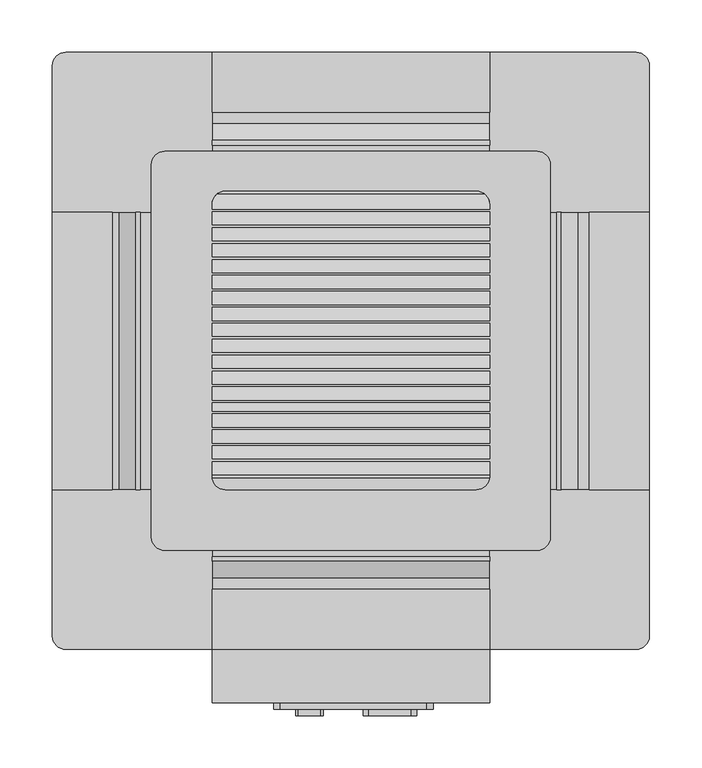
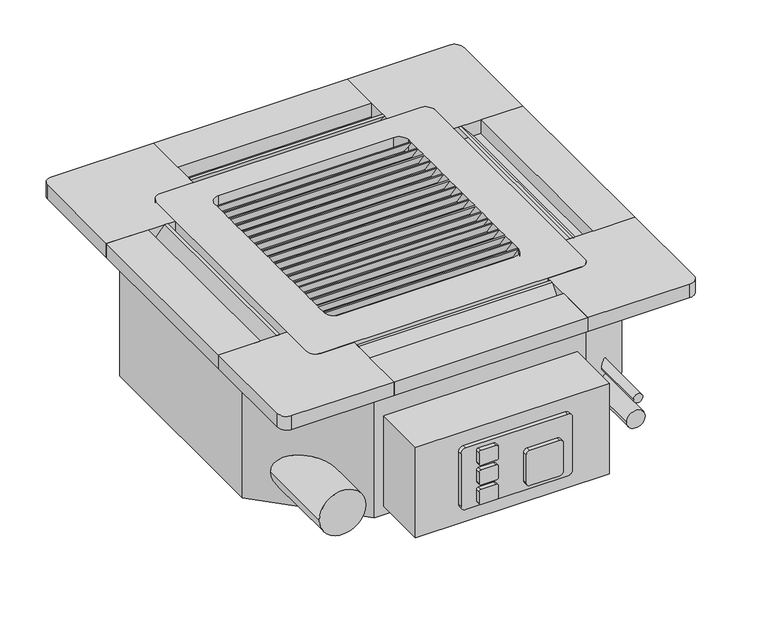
"""IFC4 building model written with IfcOpenShell, lengths in millimetres: proxy geometry, PLFY-P-NCMU-E_4-way_24x24 : PLFY-P12NCMU-E."""

from ifc_helpers import new_model, si_unit, point, frame, frame_2d, origin, place, context, project, spatial, polyline, circle_curve, ellipse_curve, trimmed, segment, composite_curve, outline, extrude, source, transform, mapped, element, save
from ifc_brep_helpers import plane_surface, cylinder_surface, revolved_surface, advanced_brep


def mechanical_equipment_2d84379e(model_context):
    return source(origin(), model_context, "Body", "SolidModel", [
        extrude(outline(polyline([(284.95625, -201.1772913), (227.80625, -201.1772913), (227.80625, 63.9352087), (284.95625, 63.9352087), (284.95625, -201.1772913)])), frame((0.0, 0.0, -1.02e-05), z_axis=(0.0, 0.0, 1.0), x_axis=(1.0, 0.0, 0.0)), (0.0, 0.0, 1.0), 19.84375),
        extrude(outline(polyline([(-284.95625, -201.1772913), (-284.95625, 63.9352087), (-227.80625, 63.9352087), (-227.80625, -201.1772913), (-284.95625, -201.1772913)])), frame((0.0, 0.0, -1.02e-05), z_axis=(0.0, 0.0, 1.0), x_axis=(1.0, 0.0, 0.0)), (0.0, 0.0, 1.0), 19.84375),
        extrude(outline(polyline([(-132.55625, 216.3352087), (132.55625, 216.3352087), (132.55625, 159.1852087), (-132.55625, 159.1852087), (-132.55625, 216.3352087)])), frame((0.0, 0.0, -1.02e-05), z_axis=(0.0, 0.0, 1.0), x_axis=(1.0, 0.0, 0.0)), (0.0, 0.0, 1.0), 19.84375),
        extrude(outline(polyline([(-132.55625, -353.5772913), (-132.55625, -296.4272913), (132.55625, -296.4272913), (132.55625, -353.5772913), (-132.55625, -353.5772913)])), frame((0.0, 0.0, -1.02e-05), z_axis=(0.0, 0.0, 1.0), x_axis=(1.0, 0.0, 0.0)), (0.0, 0.0, 1.0), 19.84375),
        extrude(outline(polyline([(-187.079491, 19.8437398), (-173.1847477, -1.02e-05), (-175.7772913, -1.02e-05), (-189.6720346, 19.8437398), (-187.079491, 19.8437398)])), frame((-132.55625, 0.0, 0.0), z_axis=(1.0, 0.0, 0.0), x_axis=(0.0, 1.0, 0.0)), (0.0, 0.0, 1.0), 265.1125),
        advanced_brep(
        [(-177.8, -259.1210413, -1.02e-05), (-190.5, -246.4210413, -1.02e-05), (-190.5, 109.1789587, -1.02e-05), (-177.8, 121.8789587, -1.02e-05), (177.8, 121.8789587, -1.02e-05), (190.5, 109.1789587, -1.02e-05), (190.5, -246.4210413, -1.02e-05), (177.8, -259.1210413, -1.02e-05), (132.55625, -130.1575084, -1.02e-05), (-132.55625, -130.1575084, -1.02e-05), (-132.55625, -142.7715591, -1.02e-05), (132.55625, -142.7715591, -1.02e-05), (132.55625, -114.9509141, -1.02e-05), (-132.55625, -114.9509141, -1.02e-05), (-132.55625, -127.5649648, -1.02e-05), (132.55625, -127.5649648, -1.02e-05), (132.55625, -104.3814755, -1.02e-05), (-132.55625, -104.3814755, -1.02e-05), (-132.55625, -112.3583705, -1.02e-05), (132.55625, -112.3583705, -1.02e-05), (132.55625, -89.1748812, -1.02e-05), (-132.55625, -89.1748812, -1.02e-05), (-132.55625, -101.7889319, -1.02e-05), (132.55625, -101.7889319, -1.02e-05), (132.55625, -73.9682869, -1.02e-05), (-132.55625, -73.9682869, -1.02e-05), (-132.55625, -86.5823376, -1.02e-05), (132.55625, -86.5823376, -1.02e-05), (132.55625, -58.7616926, -1.02e-05), (-132.55625, -58.7616926, -1.02e-05), (-132.55625, -71.3757433, -1.02e-05), (132.55625, -71.3757433, -1.02e-05), (132.55625, -43.5550983, -1.02e-05), (-132.55625, -43.5550983, -1.02e-05), (-132.55625, -56.169149, -1.02e-05), (132.55625, -56.169149, -1.02e-05), (132.55625, -28.348504, -1.02e-05), (-132.55625, -28.348504, -1.02e-05), (-132.55625, -40.9625547, -1.02e-05), (132.55625, -40.9625547, -1.02e-05), (132.55625, -13.1419097, -1.02e-05), (-132.55625, -13.1419097, -1.02e-05), (-132.55625, -25.7559604, -1.02e-05), (132.55625, -25.7559604, -1.02e-05), (132.55625, 32.4778732, -1.02e-05), (-132.55625, 32.4778732, -1.02e-05), (-132.55625, 19.8638225, -1.02e-05), (132.55625, 19.8638225, -1.02e-05), (132.55625, 47.6844675, -1.02e-05), (-132.55625, 47.6844675, -1.02e-05), (-132.55625, 35.0704168, -1.02e-05), (132.55625, 35.0704168, -1.02e-05), (132.55625, 62.8910618, -1.02e-05), (-132.55625, 62.8910618, -1.02e-05), (-132.55625, 50.2770111, -1.02e-05), (132.55625, 50.2770111, -1.02e-05), (132.55625, 2.0646846, -1.02e-05), (-132.55625, 2.0646846, -1.02e-05), (-132.55625, -10.5493661, -1.02e-05), (132.55625, -10.5493661, -1.02e-05), (-132.55625, 4.6572282, -1.02e-05), (132.55625, 4.6572282, -1.02e-05), (132.55625, 17.2712789, -1.02e-05), (-132.55625, 17.2712789, -1.02e-05), (132.55625, 71.0789587, -1.02e-05), (130.4405727, 78.0976561, -1.02e-05), (-130.4405727, 78.0976561, -1.02e-05), (-132.55625, 71.0789587, -1.02e-05), (-132.55625, 65.4836054, -1.02e-05), (132.55625, 65.4836054, -1.02e-05), (-132.55625, -145.3641027, -1.02e-05), (-132.55625, -157.9781534, -1.02e-05), (132.55625, -157.9781534, -1.02e-05), (132.55625, -145.3641027, -1.02e-05), (-132.55625, -188.4772913, -1.02e-05), (-119.85625, -201.1772913, -1.02e-05), (119.85625, -201.1772913, -1.02e-05), (132.55625, -188.4772913, -1.02e-05), (132.55625, -160.570697, -1.02e-05), (-132.55625, -160.570697, -1.02e-05), (119.85625, 83.7789587, -1.02e-05), (-119.85625, 83.7789587, -1.02e-05), (-128.1576984, 80.6901997, -1.02e-05), (128.1576984, 80.6901997, -1.02e-05), (-177.8, -259.1210413, 19.8437398), (177.8, -259.1210413, 19.8437398), (190.5, -246.4210413, 19.8437398), (190.5, 109.1789587, 19.8437398), (177.8, 121.8789587, 19.8437398), (-177.8, 121.8789587, 19.8437398), (-190.5, 109.1789587, 19.8437398), (-190.5, -246.4210413, 19.8437398), (-132.55625, -144.0522517, 19.8437398), (132.55625, -144.0522517, 19.8437398), (132.55625, -156.6663024, 19.8437398), (-132.55625, -156.6663024, 19.8437398), (-132.55625, -128.8456574, 19.8437398), (132.55625, -128.8456574, 19.8437398), (132.55625, -141.4597081, 19.8437398), (-132.55625, -141.4597081, 19.8437398), (-132.55625, -118.2762188, 19.8437398), (132.55625, -118.2762188, 19.8437398), (132.55625, -126.2531138, 19.8437398), (-132.55625, -126.2531138, 19.8437398), (-132.55625, -103.0696245, 19.8437398), (132.55625, -103.0696245, 19.8437398), (132.55625, -115.6836752, 19.8437398), (-132.55625, -115.6836752, 19.8437398), (-132.55625, -87.8630302, 19.8437398), (132.55625, -87.8630302, 19.8437398), (132.55625, -100.4770809, 19.8437398), (-132.55625, -100.4770809, 19.8437398), (-132.55625, -72.6564359, 19.8437398), (132.55625, -72.6564359, 19.8437398), (132.55625, -85.2704866, 19.8437398), (-132.55625, -85.2704866, 19.8437398), (-132.55625, -57.4498416, 19.8437398), (132.55625, -57.4498416, 19.8437398), (132.55625, -70.0638923, 19.8437398), (-132.55625, -70.0638923, 19.8437398), (-132.55625, -42.2432473, 19.8437398), (132.55625, -42.2432473, 19.8437398), (132.55625, -54.857298, 19.8437398), (-132.55625, -54.857298, 19.8437398), (-132.55625, -27.036653, 19.8437398), (132.55625, -27.036653, 19.8437398), (132.55625, -39.6507037, 19.8437398), (-132.55625, -39.6507037, 19.8437398), (-132.55625, 18.5831298, 19.8437398), (132.55625, 18.5831298, 19.8437398), (132.55625, 5.9690792, 19.8437398), (-132.55625, 5.9690792, 19.8437398), (-132.55625, 33.7897241, 19.8437398), (132.55625, 33.7897241, 19.8437398), (132.55625, 21.1756735, 19.8437398), (-132.55625, 21.1756735, 19.8437398), (-132.55625, 48.9963184, 19.8437398), (132.55625, 48.9963184, 19.8437398), (132.55625, 36.3822678, 19.8437398), (-132.55625, 36.3822678, 19.8437398), (-132.55625, -11.8300587, 19.8437398), (132.55625, -11.8300587, 19.8437398), (132.55625, -24.4441094, 19.8437398), (-132.55625, -24.4441094, 19.8437398), (132.55625, -9.2375151, 19.8437398), (-132.55625, -9.2375151, 19.8437398), (-132.55625, 3.3765356, 19.8437398), (132.55625, 3.3765356, 19.8437398), (-132.55625, 64.2029127, 19.8437398), (132.55625, 64.2029127, 19.8437398), (132.55625, 51.5888621, 19.8437398), (-132.55625, 51.5888621, 19.8437398), (-132.55625, 71.0789587, 19.8437398), (-119.85625, 83.7789587, 19.8437398), (119.85625, 83.7789587, 19.8437398), (132.55625, 71.0789587, 19.8437398), (132.55625, 66.7954564, 19.8437398), (-132.55625, 66.7954564, 19.8437398), (132.55625, -159.258846, 19.8437398), (132.55625, -171.8728967, 19.8437398), (-132.55625, -171.8728967, 19.8437398), (-132.55625, -159.258846, 19.8437398), (132.55625, -188.4772913, 19.8437398), (119.85625, -201.1772913, 19.8437398), (-119.85625, -201.1772913, 19.8437398), (-132.55625, -188.4772913, 19.8437398), (-132.55625, -174.4654403, 19.8437398), (132.55625, -174.4654403, 19.8437398), (132.55625, 71.0789587, 13.7262645), (132.55625, 71.0789587, 10.0237284), (-132.55625, 71.0789587, 10.0237284), (-132.55625, 71.0789587, 13.7262645)],
        [
            (0, 1, circle_curve(frame((-177.8, -246.4210413, -1.02e-05), z_axis=(0.0, 0.0, -1.0), x_axis=(-1.0, 0.0, 0.0)), 12.7)),
            (1, 2),
            (2, 3, circle_curve(frame((-177.8, 109.1789587, -1.02e-05), z_axis=(0.0, 0.0, -1.0), x_axis=(-1.0, 0.0, 0.0)), 12.7)),
            (3, 4),
            (4, 5, circle_curve(frame((177.8, 109.1789587, -1.02e-05), z_axis=(0.0, 0.0, -1.0), x_axis=(-1.0, 0.0, 0.0)), 12.7)),
            (5, 6),
            (6, 7, circle_curve(frame((177.8, -246.4210413, -1.02e-05), z_axis=(0.0, 0.0, -1.0), x_axis=(-1.0, 0.0, 0.0)), 12.7)),
            (7, 0),
            (8, 9),
            (9, 10),
            (10, 11),
            (11, 8),
            (12, 13),
            (13, 14),
            (14, 15),
            (15, 12),
            (16, 17),
            (17, 18),
            (18, 19),
            (19, 16),
            (20, 21),
            (21, 22),
            (22, 23),
            (23, 20),
            (24, 25),
            (25, 26),
            (26, 27),
            (27, 24),
            (28, 29),
            (29, 30),
            (30, 31),
            (31, 28),
            (32, 33),
            (33, 34),
            (34, 35),
            (35, 32),
            (36, 37),
            (37, 38),
            (38, 39),
            (39, 36),
            (40, 41),
            (41, 42),
            (42, 43),
            (43, 40),
            (44, 45),
            (45, 46),
            (46, 47),
            (47, 44),
            (48, 49),
            (49, 50),
            (50, 51),
            (51, 48),
            (52, 53),
            (53, 54),
            (54, 55),
            (55, 52),
            (56, 57),
            (57, 58),
            (58, 59),
            (59, 56),
            (60, 61),
            (61, 62),
            (62, 63),
            (63, 60),
            (64, 65, circle_curve(frame((119.85625, 71.0789587, -1.02e-05), z_axis=(0.0, 0.0, 1.0), x_axis=(-1.0, 0.0, 0.0)), 12.7)),
            (65, 66),
            (66, 67, circle_curve(frame((-119.85625, 71.0789587, -1.02e-05), z_axis=(0.0, 0.0, 1.0), x_axis=(-1.0, 0.0, 0.0)), 12.7)),
            (67, 68),
            (68, 69),
            (69, 64),
            (70, 71),
            (71, 72),
            (72, 73),
            (73, 70),
            (74, 75, circle_curve(frame((-119.85625, -188.4772913, -1.02e-05), z_axis=(0.0, 0.0, 1.0), x_axis=(-1.0, 0.0, 0.0)), 12.7)),
            (75, 76),
            (76, 77, circle_curve(frame((119.85625, -188.4772913, -1.02e-05), z_axis=(0.0, 0.0, 1.0), x_axis=(-1.0, 0.0, 0.0)), 12.7)),
            (77, 78),
            (78, 79),
            (79, 74),
            (80, 81),
            (81, 82, circle_curve(frame((-119.85625, 71.0789587, -1.02e-05), z_axis=(0.0, 0.0, 1.0), x_axis=(-1.0, 0.0, 0.0)), 12.7)),
            (82, 83),
            (83, 80, circle_curve(frame((119.85625, 71.0789587, -1.02e-05), z_axis=(0.0, 0.0, 1.0), x_axis=(-1.0, 0.0, 0.0)), 12.7)),
            (84, 85),
            (85, 86, circle_curve(frame((177.8, -246.4210413, 19.8437398), z_axis=(0.0, 0.0, 1.0), x_axis=(-1.0, 0.0, 0.0)), 12.7)),
            (86, 87),
            (87, 88, circle_curve(frame((177.8, 109.1789587, 19.8437398), z_axis=(0.0, 0.0, 1.0), x_axis=(-1.0, 0.0, 0.0)), 12.7)),
            (88, 89),
            (89, 90, circle_curve(frame((-177.8, 109.1789587, 19.8437398), z_axis=(0.0, 0.0, 1.0), x_axis=(-1.0, 0.0, 0.0)), 12.7)),
            (90, 91),
            (91, 84, circle_curve(frame((-177.8, -246.4210413, 19.8437398), z_axis=(0.0, 0.0, 1.0), x_axis=(-1.0, 0.0, 0.0)), 12.7)),
            (92, 93),
            (93, 94),
            (94, 95),
            (95, 92),
            (96, 97),
            (97, 98),
            (98, 99),
            (99, 96),
            (100, 101),
            (101, 102),
            (102, 103),
            (103, 100),
            (104, 105),
            (105, 106),
            (106, 107),
            (107, 104),
            (108, 109),
            (109, 110),
            (110, 111),
            (111, 108),
            (112, 113),
            (113, 114),
            (114, 115),
            (115, 112),
            (116, 117),
            (117, 118),
            (118, 119),
            (119, 116),
            (120, 121),
            (121, 122),
            (122, 123),
            (123, 120),
            (124, 125),
            (125, 126),
            (126, 127),
            (127, 124),
            (128, 129),
            (129, 130),
            (130, 131),
            (131, 128),
            (132, 133),
            (133, 134),
            (134, 135),
            (135, 132),
            (136, 137),
            (137, 138),
            (138, 139),
            (139, 136),
            (140, 141),
            (141, 142),
            (142, 143),
            (143, 140),
            (144, 145),
            (145, 146),
            (146, 147),
            (147, 144),
            (148, 149),
            (149, 150),
            (150, 151),
            (151, 148),
            (152, 153, circle_curve(frame((-119.85625, 71.0789587, 19.8437398), z_axis=(0.0, 0.0, -1.0), x_axis=(-1.0, 0.0, 0.0)), 12.7)),
            (153, 154),
            (154, 155, circle_curve(frame((119.85625, 71.0789587, 19.8437398), z_axis=(0.0, 0.0, -1.0), x_axis=(-1.0, 0.0, 0.0)), 12.7)),
            (155, 156),
            (156, 157),
            (157, 152),
            (158, 159),
            (159, 160),
            (160, 161),
            (161, 158),
            (162, 163, circle_curve(frame((119.85625, -188.4772913, 19.8437398), z_axis=(0.0, 0.0, -1.0), x_axis=(-1.0, 0.0, 0.0)), 12.7)),
            (163, 164),
            (164, 165, circle_curve(frame((-119.85625, -188.4772913, 19.8437398), z_axis=(0.0, 0.0, -1.0), x_axis=(-1.0, 0.0, 0.0)), 12.7)),
            (165, 166),
            (166, 167),
            (167, 162),
            (155, 168),
            (168, 156),
            (77, 162),
            (167, 78),
            (169, 64),
            (69, 150),
            (149, 169),
            (61, 144),
            (147, 62),
            (141, 56),
            (59, 142),
            (137, 52),
            (55, 138),
            (133, 48),
            (51, 134),
            (129, 44),
            (47, 130),
            (125, 40),
            (43, 126),
            (121, 36),
            (39, 122),
            (117, 32),
            (35, 118),
            (113, 28),
            (31, 114),
            (109, 24),
            (27, 110),
            (105, 20),
            (23, 106),
            (101, 16),
            (19, 102),
            (97, 12),
            (15, 98),
            (93, 8),
            (11, 94),
            (158, 73),
            (72, 159),
            (169, 65, ellipse_curve(frame((119.85625, 71.0789587, 10.0237284), z_axis=(0.0, 0.8191520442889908, 0.5735764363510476), x_axis=(0.0, -0.5735764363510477, 0.8191520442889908)), 22.1417743, 12.7)),
            (154, 80),
            (83, 168, ellipse_curve(frame((119.85625, 71.0789587, 13.7262645), z_axis=(0.0, -0.8191520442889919, -0.573576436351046), x_axis=(0.0, -0.5735764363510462, 0.8191520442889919)), 22.1417743, 12.7)),
            (153, 81),
            (66, 170, ellipse_curve(frame((-119.85625, 71.0789587, 10.0237284), z_axis=(0.0, 0.8191520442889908, 0.5735764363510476), x_axis=(0.0, -0.5735764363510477, 0.8191520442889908)), 22.1417743, 12.7)),
            (170, 67),
            (152, 171),
            (171, 82, ellipse_curve(frame((-119.85625, 71.0789587, 13.7262645), z_axis=(0.0, -0.8191520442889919, -0.573576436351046), x_axis=(0.0, -0.5735764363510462, 0.8191520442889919)), 22.1417743, 12.7)),
            (157, 171),
            (170, 148),
            (151, 68),
            (165, 74),
            (79, 166),
            (145, 60),
            (63, 146),
            (57, 140),
            (143, 58),
            (53, 136),
            (139, 54),
            (49, 132),
            (135, 50),
            (45, 128),
            (131, 46),
            (41, 124),
            (127, 42),
            (37, 120),
            (123, 38),
            (33, 116),
            (119, 34),
            (29, 112),
            (115, 30),
            (25, 108),
            (111, 26),
            (21, 104),
            (107, 22),
            (17, 100),
            (103, 18),
            (13, 96),
            (99, 14),
            (9, 92),
            (95, 10),
            (70, 161),
            (160, 71),
            (164, 75),
            (163, 76),
            (0, 84),
            (91, 1),
            (90, 2),
            (89, 3),
            (88, 4),
            (87, 5),
            (86, 6),
            (85, 7),
        ],
        [
            plane_surface(frame((132.55625, 71.0789587, -1.02e-05), z_axis=(0.0, 0.0, -1.0), x_axis=(0.0, 1.0, 0.0))),
            plane_surface(frame((132.55625, 71.0789587, 19.8437398), z_axis=(0.0, 0.0, 1.0), x_axis=(0.0, -1.0, 0.0))),
            plane_surface(frame((132.55625, -188.4772913, -1.02e-05), z_axis=(-1.0, 0.0, 0.0), x_axis=(0.0, 0.0, 1.0))),
            revolved_surface(polyline([(107.15625, 71.0789587, 28.161208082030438), (107.15625, 71.0789587, -8.113751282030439)]), (119.85625, 71.0789587, 19.8437398), (0.0, 0.0, 1.0)),
            revolved_surface(polyline([(107.15625, 71.0789587, 31.863744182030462), (107.15625, 71.0789587, -4.411215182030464)]), (119.85625, 71.0789587, 19.8437398), (0.0, 0.0, 1.0)),
            plane_surface(frame((119.85625, 83.7789587, -1.02e-05), z_axis=(0.0, -1.0, 0.0), x_axis=(0.0, 0.0, 1.0))),
            revolved_surface(polyline([(-132.55625, 71.0789587, 28.161208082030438), (-132.55625, 71.0789587, -8.113751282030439)]), (-119.85625, 71.0789587, 19.8437398), (0.0, 0.0, 1.0)),
            revolved_surface(polyline([(-132.55625, 71.0789587, 31.863744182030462), (-132.55625, 71.0789587, -4.411215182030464)]), (-119.85625, 71.0789587, 19.8437398), (0.0, 0.0, 1.0)),
            plane_surface(frame((-132.55625, 71.0789587, -1.02e-05), z_axis=(1.0, 0.0, 0.0), x_axis=(0.0, 0.0, 1.0))),
            revolved_surface(polyline([(-132.55625, -188.4772913, 19.8437398), (-132.55625, -188.4772913, -1.0199999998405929e-05)]), (-119.85625, -188.4772913, 19.8437398), (0.0, 0.0, 1.0)),
            plane_surface(frame((-119.85625, -201.1772913, -1.02e-05), z_axis=(0.0, 1.0, 0.0), x_axis=(0.0, 0.0, 1.0))),
            revolved_surface(polyline([(107.15625, -188.4772913, 19.8437398), (107.15625, -188.4772913, -1.0199999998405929e-05)]), (119.85625, -188.4772913, 19.8437398), (0.0, 0.0, 1.0)),
            cylinder_surface(frame((-177.8, -246.4210413, -1.02e-05), z_axis=(0.0, 0.0, -1.0), x_axis=(-1.0, 0.0, 0.0)), 12.7),
            plane_surface(frame((-190.5, -246.4210413, -1.02e-05), z_axis=(-1.0, 0.0, 0.0), x_axis=(0.0, 0.0, 1.0))),
            cylinder_surface(frame((-177.8, 109.1789587, -1.02e-05), z_axis=(0.0, 0.0, -1.0), x_axis=(-1.0, 0.0, 0.0)), 12.7),
            plane_surface(frame((-177.8, 121.8789587, -1.02e-05), z_axis=(0.0, 1.0, 0.0), x_axis=(0.0, 0.0, 1.0))),
            cylinder_surface(frame((177.8, 109.1789587, -1.02e-05), z_axis=(0.0, 0.0, -1.0), x_axis=(-1.0, 0.0, 0.0)), 12.7),
            plane_surface(frame((190.5, 109.1789587, -1.02e-05), z_axis=(1.0, 0.0, 0.0), x_axis=(0.0, 0.0, 1.0))),
            cylinder_surface(frame((177.8, -246.4210413, -1.02e-05), z_axis=(0.0, 0.0, -1.0), x_axis=(-1.0, 0.0, 0.0)), 12.7),
            plane_surface(frame((177.8, -259.1210413, -1.02e-05), z_axis=(0.0, -1.0, 0.0), x_axis=(0.0, 0.0, 1.0))),
            plane_surface(frame((-132.55625, 66.7954564, 19.8437398), z_axis=(0.0, 0.8191520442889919, 0.573576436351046), x_axis=(1.0, 0.0, 0.0))),
            plane_surface(frame((-132.55625, 78.0976561, -1.02e-05), z_axis=(0.0, -0.8191520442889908, -0.5735764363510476), x_axis=(1.0, 0.0, 0.0))),
            plane_surface(frame((-132.55625, -9.2375151, 19.8437398), z_axis=(0.0, 0.8191520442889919, 0.573576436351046), x_axis=(1.0, 0.0, 0.0))),
            plane_surface(frame((-132.55625, 2.0646846, -1.02e-05), z_axis=(0.0, -0.8191520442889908, -0.5735764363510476), x_axis=(1.0, 0.0, 0.0))),
            plane_surface(frame((-132.55625, 51.5888621, 19.8437398), z_axis=(0.0, 0.8191520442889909, 0.5735764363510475), x_axis=(1.0, 0.0, 0.0))),
            plane_surface(frame((-132.55625, 62.8910618, -1.02e-05), z_axis=(0.0, -0.8191520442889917, -0.5735764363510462), x_axis=(1.0, 0.0, 0.0))),
            plane_surface(frame((-132.55625, 36.3822678, 19.8437398), z_axis=(0.0, 0.8191520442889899, 0.5735764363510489), x_axis=(1.0, 0.0, 0.0))),
            plane_surface(frame((-132.55625, 47.6844675, -1.02e-05), z_axis=(0.0, -0.8191520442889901, -0.5735764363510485), x_axis=(1.0, 0.0, 0.0))),
            plane_surface(frame((-132.55625, 21.1756735, 19.8437398), z_axis=(0.0, 0.8191520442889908, 0.5735764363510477), x_axis=(1.0, 0.0, 0.0))),
            plane_surface(frame((-132.55625, 32.4778732, -1.02e-05), z_axis=(0.0, -0.8191520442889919, -0.5735764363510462), x_axis=(1.0, 0.0, 0.0))),
            plane_surface(frame((-132.55625, 5.9690792, 19.8437398), z_axis=(0.0, 0.8191520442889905, 0.5735764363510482), x_axis=(1.0, 0.0, 0.0))),
            plane_surface(frame((-132.55625, 17.2712789, -1.02e-05), z_axis=(0.0, -0.8191520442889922, -0.5735764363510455), x_axis=(1.0, 0.0, 0.0))),
            plane_surface(frame((-132.55625, -24.4441094, 19.8437398), z_axis=(0.0, 0.8191520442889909, 0.5735764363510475), x_axis=(1.0, 0.0, 0.0))),
            plane_surface(frame((-132.55625, -13.1419097, -1.02e-05), z_axis=(0.0, -0.8191520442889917, -0.5735764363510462), x_axis=(1.0, 0.0, 0.0))),
            plane_surface(frame((-132.55625, -39.6507037, 19.8437398), z_axis=(0.0, 0.8191520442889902, 0.5735764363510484), x_axis=(1.0, 0.0, 0.0))),
            plane_surface(frame((-132.55625, -28.348504, -1.02e-05), z_axis=(0.0, -0.8191520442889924, -0.5735764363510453), x_axis=(1.0, 0.0, 0.0))),
            plane_surface(frame((-132.55625, -54.857298, 19.8437398), z_axis=(0.0, 0.8191520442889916, 0.5735764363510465), x_axis=(1.0, 0.0, 0.0))),
            plane_surface(frame((-132.55625, -43.5550983, -1.02e-05), z_axis=(0.0, -0.8191520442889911, -0.5735764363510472), x_axis=(1.0, 0.0, 0.0))),
            plane_surface(frame((-132.55625, -70.0638923, 19.8437398), z_axis=(0.0, 0.8191520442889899, 0.5735764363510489), x_axis=(1.0, 0.0, 0.0))),
            plane_surface(frame((-132.55625, -58.7616926, -1.02e-05), z_axis=(0.0, -0.8191520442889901, -0.5735764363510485), x_axis=(1.0, 0.0, 0.0))),
            plane_surface(frame((-132.55625, -85.2704866, 19.8437398), z_axis=(0.0, 0.8191520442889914, 0.5735764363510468), x_axis=(1.0, 0.0, 0.0))),
            plane_surface(frame((-132.55625, -73.9682869, -1.02e-05), z_axis=(0.0, -0.8191520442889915, -0.5735764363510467), x_axis=(1.0, 0.0, 0.0))),
            plane_surface(frame((-132.55625, -100.4770809, 19.8437398), z_axis=(0.0, 0.8191520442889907, 0.5735764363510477), x_axis=(1.0, 0.0, 0.0))),
            plane_surface(frame((-132.55625, -89.1748812, -1.02e-05), z_axis=(0.0, -0.8191520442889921, -0.5735764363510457), x_axis=(1.0, 0.0, 0.0))),
            plane_surface(frame((-132.55625, -115.6836752, 19.8437398), z_axis=(0.0, 0.819152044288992, 0.5735764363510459), x_axis=(1.0, 0.0, 0.0))),
            plane_surface(frame((-132.55625, -104.3814755, -1.02e-05), z_axis=(0.0, -0.8191520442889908, -0.5735764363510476), x_axis=(1.0, 0.0, 0.0))),
            plane_surface(frame((-132.55625, -126.2531138, 19.8437398), z_axis=(0.0, 0.8191520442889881, 0.5735764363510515), x_axis=(1.0, 0.0, 0.0))),
            plane_surface(frame((-132.55625, -114.9509141, -1.02e-05), z_axis=(0.0, -0.8191520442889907, -0.5735764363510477), x_axis=(1.0, 0.0, 0.0))),
            plane_surface(frame((-132.55625, -141.4597081, 19.8437398), z_axis=(0.0, 0.8191520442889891, 0.5735764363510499), x_axis=(1.0, 0.0, 0.0))),
            plane_surface(frame((-132.55625, -130.1575084, -1.02e-05), z_axis=(0.0, -0.819152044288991, -0.5735764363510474), x_axis=(1.0, 0.0, 0.0))),
            plane_surface(frame((-132.55625, -156.6663024, 19.8437398), z_axis=(0.0, 0.8191520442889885, 0.5735764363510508), x_axis=(1.0, 0.0, 0.0))),
            plane_surface(frame((-132.55625, -145.3641027, -1.02e-05), z_axis=(0.0, -0.819152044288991, -0.5735764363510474), x_axis=(1.0, 0.0, 0.0))),
            plane_surface(frame((-132.55625, -171.8728967, 19.8437398), z_axis=(0.0, 0.8191520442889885, 0.5735764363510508), x_axis=(1.0, 0.0, 0.0))),
            plane_surface(frame((-132.55625, -160.570697, -1.02e-05), z_axis=(0.0, -0.819152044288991, -0.5735764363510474), x_axis=(1.0, 0.0, 0.0))),
        ],
        [
            (0, [[1, 2, 3, 4, 5, 6, 7, 8], [9, 10, 11, 12], [13, 14, 15, 16], [17, 18, 19, 20], [21, 22, 23, 24], [25, 26, 27, 28], [29, 30, 31, 32], [33, 34, 35, 36], [37, 38, 39, 40], [41, 42, 43, 44], [45, 46, 47, 48], [49, 50, 51, 52], [53, 54, 55, 56], [57, 58, 59, 60], [61, 62, 63, 64], [65, 66, 67, 68, 69, 70], [71, 72, 73, 74], [75, 76, 77, 78, 79, 80], [81, 82, 83, 84]]),
            (1, [[85, 86, 87, 88, 89, 90, 91, 92], [93, 94, 95, 96], [97, 98, 99, 100], [101, 102, 103, 104], [105, 106, 107, 108], [109, 110, 111, 112], [113, 114, 115, 116], [117, 118, 119, 120], [121, 122, 123, 124], [125, 126, 127, 128], [129, 130, 131, 132], [133, 134, 135, 136], [137, 138, 139, 140], [141, 142, 143, 144], [145, 146, 147, 148], [149, 150, 151, 152], [153, 154, 155, 156, 157, 158], [159, 160, 161, 162], [163, 164, 165, 166, 167, 168]]),
            (2, [[-156, 169, 170]]),
            (2, [[171, -168, 172, -78]]),
            (2, [[173, -70, 174, -150, 175]]),
            (2, [[176, -148, 177, -62]]),
            (2, [[178, -60, 179, -142]]),
            (2, [[180, -56, 181, -138]]),
            (2, [[182, -52, 183, -134]]),
            (2, [[184, -48, 185, -130]]),
            (2, [[186, -44, 187, -126]]),
            (2, [[188, -40, 189, -122]]),
            (2, [[190, -36, 191, -118]]),
            (2, [[192, -32, 193, -114]]),
            (2, [[194, -28, 195, -110]]),
            (2, [[196, -24, 197, -106]]),
            (2, [[198, -20, 199, -102]]),
            (2, [[200, -16, 201, -98]]),
            (2, [[202, -12, 203, -94]]),
            (2, [[204, -73, 205, -159]]),
            (3, [[-65, -173, 206]]),
            (4, [[-155, 207, -84, 208, -169]]),
            (5, [[-81, -207, -154, 209]]),
            (6, [[-67, 210, 211]]),
            (7, [[-153, 212, 213, -82, -209]]),
            (8, [[-158, 214, -212]]),
            (8, [[-211, 215, -152, 216, -68]]),
            (8, [[217, -80, 218, -166]]),
            (8, [[219, -64, 220, -146]]),
            (8, [[221, -144, 222, -58]]),
            (8, [[223, -140, 224, -54]]),
            (8, [[225, -136, 226, -50]]),
            (8, [[227, -132, 228, -46]]),
            (8, [[229, -128, 230, -42]]),
            (8, [[231, -124, 232, -38]]),
            (8, [[233, -120, 234, -34]]),
            (8, [[235, -116, 236, -30]]),
            (8, [[237, -112, 238, -26]]),
            (8, [[239, -108, 240, -22]]),
            (8, [[241, -104, 242, -18]]),
            (8, [[243, -100, 244, -14]]),
            (8, [[245, -96, 246, -10]]),
            (8, [[247, -161, 248, -71]]),
            (9, [[-75, -217, -165, 249]]),
            (10, [[-76, -249, -164, 250]]),
            (11, [[-77, -250, -163, -171]]),
            (12, [[-1, 251, -92, 252]]),
            (13, [[-2, -252, -91, 253]]),
            (14, [[-3, -253, -90, 254]]),
            (15, [[-4, -254, -89, 255]]),
            (16, [[-5, -255, -88, 256]]),
            (17, [[-6, -256, -87, 257]]),
            (18, [[-7, -257, -86, 258]]),
            (19, [[-8, -258, -85, -251]]),
            (20, [[-157, -170, -208, -83, -213, -214]]),
            (21, [[-149, -215, -210, -66, -206, -175]]),
            (22, [[-145, -176, -61, -219]]),
            (23, [[-57, -178, -141, -221]]),
            (24, [[-151, -174, -69, -216]]),
            (25, [[-53, -180, -137, -223]]),
            (26, [[-139, -181, -55, -224]]),
            (27, [[-49, -182, -133, -225]]),
            (28, [[-135, -183, -51, -226]]),
            (29, [[-45, -184, -129, -227]]),
            (30, [[-131, -185, -47, -228]]),
            (31, [[-63, -177, -147, -220]]),
            (32, [[-143, -179, -59, -222]]),
            (33, [[-41, -186, -125, -229]]),
            (34, [[-127, -187, -43, -230]]),
            (35, [[-37, -188, -121, -231]]),
            (36, [[-123, -189, -39, -232]]),
            (37, [[-33, -190, -117, -233]]),
            (38, [[-119, -191, -35, -234]]),
            (39, [[-29, -192, -113, -235]]),
            (40, [[-115, -193, -31, -236]]),
            (41, [[-25, -194, -109, -237]]),
            (42, [[-111, -195, -27, -238]]),
            (43, [[-21, -196, -105, -239]]),
            (44, [[-107, -197, -23, -240]]),
            (45, [[-17, -198, -101, -241]]),
            (46, [[-103, -199, -19, -242]]),
            (47, [[-13, -200, -97, -243]]),
            (48, [[-99, -201, -15, -244]]),
            (49, [[-9, -202, -93, -245]]),
            (50, [[-95, -203, -11, -246]]),
            (51, [[-74, -204, -162, -247]]),
            (52, [[-160, -205, -72, -248]]),
            (53, [[-79, -172, -167, -218]]),
        ],
    ),
        advanced_brep(
        [(259.55625, 76.6352087, -188.1187602), (259.55625, -213.8772913, -188.1187602), (145.25625, -328.1772913, -188.1187602), (-145.25625, -328.1772913, -188.1187602), (-259.55625, -213.8772913, -188.1187602), (-259.55625, 76.6352087, -188.1187602), (-145.25625, 190.9352087, -188.1187602), (145.25625, 190.9352087, -188.1187602), (259.55625, 76.6352087, -1.02e-05), (145.25625, 190.9352087, -1.02e-05), (-145.25625, 190.9352087, -1.02e-05), (-259.55625, 76.6352087, -1.02e-05), (-259.55625, -213.8772913, -1.02e-05), (-145.25625, -328.1772913, -1.02e-05), (145.25625, -328.1772913, -1.02e-05), (259.55625, -213.8772913, -1.02e-05), (195.2625, -278.1710413, -120.6500102), (207.9625, -265.4710413, -120.6500102), (185.7375, -287.6960413, -150.0187602), (211.1375, -262.2960413, -150.0187602), (-234.95, -238.4835413, -144.6440338), (-171.45, -301.9835413, -144.6440338), (207.9625, -353.5772913, -120.6500102), (195.2625, -353.5772913, -120.6500102), (211.1375, -353.5772913, -150.0187602), (185.7375, -353.5772913, -150.0187602), (-171.45, -353.5772913, -144.6440338), (-234.95, -353.5772913, -144.6440338)],
        [
            (0, 1),
            (1, 2),
            (2, 3),
            (3, 4),
            (4, 5),
            (5, 6),
            (6, 7),
            (7, 0),
            (8, 9),
            (9, 10),
            (10, 11),
            (11, 12),
            (12, 13),
            (13, 14),
            (14, 15),
            (15, 8),
            (0, 8),
            (15, 1),
            (14, 2),
            (16, 17, ellipse_curve(frame((201.6125, -271.8210413, -120.6500102), z_axis=(-0.7071067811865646, 0.7071067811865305, 0.0), x_axis=(-0.7071067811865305, -0.7071067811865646, 0.0)), 8.9802561, 6.35)),
            (17, 16, ellipse_curve(frame((201.6125, -271.8210413, -120.6500102), z_axis=(-0.7071067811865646, 0.7071067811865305, 0.0), x_axis=(-0.7071067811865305, -0.7071067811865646, 0.0)), 8.9802561, 6.35)),
            (18, 19, ellipse_curve(frame((198.4375, -274.9960413, -150.0187602), z_axis=(-0.7071067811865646, 0.7071067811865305, 0.0), x_axis=(-0.7071067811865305, -0.7071067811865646, 0.0)), 17.9605122, 12.7)),
            (19, 18, ellipse_curve(frame((198.4375, -274.9960413, -150.0187602), z_axis=(-0.7071067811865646, 0.7071067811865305, 0.0), x_axis=(-0.7071067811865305, -0.7071067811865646, 0.0)), 17.9605122, 12.7)),
            (13, 3),
            (12, 4),
            (20, 21, ellipse_curve(frame((-203.2, -270.2335413, -144.6440338), z_axis=(0.7071067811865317, 0.7071067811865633, 0.0), x_axis=(0.7071067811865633, -0.7071067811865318, 0.0)), 44.9012806, 31.75)),
            (21, 20, ellipse_curve(frame((-203.2, -270.2335413, -144.6440338), z_axis=(0.7071067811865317, 0.7071067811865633, 0.0), x_axis=(0.7071067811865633, -0.7071067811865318, 0.0)), 44.9012806, 31.75)),
            (11, 5),
            (10, 6),
            (9, 7),
            (22, 23, circle_curve(frame((201.6125, -353.5772913, -120.6500102), z_axis=(0.0, -1.0, 0.0), x_axis=(-1.0, 0.0, 0.0)), 6.35)),
            (23, 22, circle_curve(frame((201.6125, -353.5772913, -120.6500102), z_axis=(0.0, -1.0, 0.0), x_axis=(-1.0, 0.0, 0.0)), 6.35)),
            (24, 25, circle_curve(frame((198.4375, -353.5772913, -150.0187602), z_axis=(0.0, -1.0, 0.0), x_axis=(-1.0, 0.0, 0.0)), 12.7)),
            (25, 24, circle_curve(frame((198.4375, -353.5772913, -150.0187602), z_axis=(0.0, -1.0, 0.0), x_axis=(-1.0, 0.0, 0.0)), 12.7)),
            (22, 17),
            (16, 23),
            (24, 19),
            (18, 25),
            (26, 27, circle_curve(frame((-203.2, -353.5772913, -144.6440338), z_axis=(0.0, -1.0, 0.0), x_axis=(-1.0, 0.0, 0.0)), 31.75)),
            (27, 26, circle_curve(frame((-203.2, -353.5772913, -144.6440338), z_axis=(0.0, -1.0, 0.0), x_axis=(-1.0, 0.0, 0.0)), 31.75)),
            (26, 21),
            (20, 27),
        ],
        [
            plane_surface(frame((259.55625, -213.8772913, -188.1187602), z_axis=(0.0, 0.0, -1.0), x_axis=(0.0, -1.0, 0.0))),
            plane_surface(frame((259.55625, -213.8772913, -1.02e-05), z_axis=(0.0, 0.0, 1.0), x_axis=(0.0, 1.0, 0.0))),
            plane_surface(frame((259.55625, 76.6352087, -188.1187602), z_axis=(1.0, 0.0, 0.0), x_axis=(0.0, 0.0, 1.0))),
            plane_surface(frame((259.55625, -213.8772913, -188.1187602), z_axis=(0.7071067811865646, -0.7071067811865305, 0.0), x_axis=(0.0, 0.0, 1.0))),
            plane_surface(frame((145.25625, -328.1772913, -188.1187602), z_axis=(0.0, -1.0, 0.0), x_axis=(0.0, 0.0, 1.0))),
            plane_surface(frame((-145.25625, -328.1772913, -188.1187602), z_axis=(-0.7071067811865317, -0.7071067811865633, 0.0), x_axis=(0.0, 0.0, 1.0))),
            plane_surface(frame((-259.55625, -213.8772913, -188.1187602), z_axis=(-1.0, 0.0, 0.0), x_axis=(0.0, 0.0, 1.0))),
            plane_surface(frame((-259.55625, 76.6352087, -188.1187602), z_axis=(-0.707106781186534, 0.7071067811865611, 0.0), x_axis=(0.0, 0.0, 1.0))),
            plane_surface(frame((-145.25625, 190.9352087, -188.1187602), z_axis=(0.0, 1.0, 0.0), x_axis=(0.0, 0.0, 1.0))),
            plane_surface(frame((145.25625, 190.9352087, -188.1187602), z_axis=(0.7071067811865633, 0.7071067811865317, 0.0), x_axis=(0.0, 0.0, 1.0))),
            plane_surface(frame((195.2625, -353.5772913, -120.6500102), z_axis=(0.0, -1.0, 0.0), x_axis=(0.0, 0.0, -1.0))),
            cylinder_surface(frame((201.6125, -239.2772913, -120.6500102), z_axis=(0.0, -1.0, 0.0), x_axis=(-1.0, 0.0, 0.0)), 6.35),
            cylinder_surface(frame((198.4375, -68.6210413, -150.0187602), z_axis=(0.0, -1.0, 0.0), x_axis=(-1.0, 0.0, 0.0)), 12.7),
            plane_surface(frame((-234.95, -353.5772913, -144.6440338), z_axis=(0.0, -1.0, 0.0), x_axis=(0.0, 0.0, -1.0))),
            cylinder_surface(frame((-203.2, -201.1772913, -144.6440338), z_axis=(0.0, -1.0, 0.0), x_axis=(-1.0, 0.0, 0.0)), 31.75),
        ],
        [
            (0, [[1, 2, 3, 4, 5, 6, 7, 8]]),
            (1, [[9, 10, 11, 12, 13, 14, 15, 16]]),
            (2, [[-1, 17, -16, 18]]),
            (3, [[-2, -18, -15, 19], [20, 21], [22, 23]]),
            (4, [[-3, -19, -14, 24]]),
            (5, [[-4, -24, -13, 25], [26, 27]]),
            (6, [[-5, -25, -12, 28]]),
            (7, [[-6, -28, -11, 29]]),
            (8, [[-7, -29, -10, 30]]),
            (9, [[-8, -30, -9, -17]]),
            (10, [[31, 32]]),
            (10, [[33, 34]]),
            (11, [[-31, 35, -20, 36]]),
            (11, [[-32, -36, -21, -35]]),
            (12, [[-33, 37, -22, 38]]),
            (12, [[-34, -38, -23, -37]]),
            (13, [[39, 40]]),
            (14, [[-39, 41, -26, 42]]),
            (14, [[-40, -42, -27, -41]]),
        ],
    ),
        extrude(outline(polyline([(132.55625, -328.1772913), (132.55625, -404.3772913), (-132.55625, -404.3772913), (-132.55625, -328.1772913), (132.55625, -328.1772913)])), frame((0.0, 0.0, -175.4187602), z_axis=(0.0, 0.0, 1.0), x_axis=(1.0, 0.0, 0.0)), (0.0, 0.0, 1.0), 130.96875),
        extrude(outline(composite_curve([segment(trimmed(circle_curve(frame_2d((0.0, -63.5)), 63.5), [point((0.0, -127.0))], [point((0.0, 0.0))], False, "CARTESIAN"), True, "CONTINUOUS"), segment(trimmed(circle_curve(frame_2d((0.0, -63.5)), 63.5), [point((0.0, 0.0))], [point((0.0, -127.0))], False, "CARTESIAN"), True, "CONTINUOUS")], self_intersect=False)), frame((247.3075306, 88.8839281, -94.0593852), z_axis=(0.7071067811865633, 0.7071067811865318, 0.0), x_axis=(0.0, 0.0, 1.0)), (0.0, 0.0, 1.0), 6.35),
        extrude(outline(composite_curve([segment(polyline([(-119.7652463, -50.0244022), (-119.7652463, -28.8416002)]), True, "CONTINUOUS"), segment(trimmed(circle_curve(frame_2d((-117.1173961, -28.8416002)), 2.6478502), [point((-119.7652463, -28.8416002))], [point((-117.1173961, -26.19375))], False, "CARTESIAN"), True, "CONTINUOUS"), segment(polyline([(-117.1173961, -26.19375), (-101.0393289, -26.19375)]), True, "CONTINUOUS"), segment(trimmed(circle_curve(frame_2d((-101.0393289, -28.8416002)), 2.6478502), [point((-101.0393289, -26.19375))], [point((-98.3914786, -28.8416002))], False, "CARTESIAN"), True, "CONTINUOUS"), segment(polyline([(-98.3914786, -28.8416002), (-98.3914786, -50.0244022)]), True, "CONTINUOUS"), segment(trimmed(circle_curve(frame_2d((-101.0393289, -50.0244022)), 2.6478502), [point((-98.3914786, -50.0244022))], [point((-101.0393289, -52.6722525))], False, "CARTESIAN"), True, "CONTINUOUS"), segment(polyline([(-101.0393289, -52.6722525), (-117.1173961, -52.6722525)]), True, "CONTINUOUS"), segment(trimmed(circle_curve(frame_2d((-117.1173961, -50.0244022)), 2.6478502), [point((-117.1173961, -52.6722525))], [point((-119.7652463, -50.0244022))], False, "CARTESIAN"), True, "CONTINUOUS")], self_intersect=False)), frame((0.0, -416.8418946, 0.0), z_axis=(0.0, 1.0, 0.0), x_axis=(0.0, 0.0, 1.0)), (0.0, 0.0, 1.0), 6.1146033),
        extrude(outline(composite_curve([segment(polyline([(-91.389546, -50.0244022), (-91.389546, -28.8416002)]), True, "CONTINUOUS"), segment(trimmed(circle_curve(frame_2d((-88.7416958, -28.8416002)), 2.6478502), [point((-91.389546, -28.8416002))], [point((-88.7416958, -26.19375))], False, "CARTESIAN"), True, "CONTINUOUS"), segment(polyline([(-88.7416958, -26.19375), (-72.6636286, -26.19375)]), True, "CONTINUOUS"), segment(trimmed(circle_curve(frame_2d((-72.6636286, -28.8416002)), 2.6478502), [point((-72.6636286, -26.19375))], [point((-70.0157783, -28.8416002))], False, "CARTESIAN"), True, "CONTINUOUS"), segment(polyline([(-70.0157783, -28.8416002), (-70.0157783, -50.0244022)]), True, "CONTINUOUS"), segment(trimmed(circle_curve(frame_2d((-72.6636286, -50.0244022)), 2.6478502), [point((-70.0157783, -50.0244022))], [point((-72.6636286, -52.6722525))], False, "CARTESIAN"), True, "CONTINUOUS"), segment(polyline([(-72.6636286, -52.6722525), (-88.7416958, -52.6722525)]), True, "CONTINUOUS"), segment(trimmed(circle_curve(frame_2d((-88.7416958, -50.0244022)), 2.6478502), [point((-88.7416958, -52.6722525))], [point((-91.389546, -50.0244022))], False, "CARTESIAN"), True, "CONTINUOUS")], self_intersect=False)), frame((0.0, -416.8418946, 0.0), z_axis=(0.0, 1.0, 0.0), x_axis=(0.0, 0.0, 1.0)), (0.0, 0.0, 1.0), 6.1146033),
        extrude(outline(composite_curve([segment(polyline([(-148.1409467, -50.0244022), (-148.1409467, -28.8416002)]), True, "CONTINUOUS"), segment(trimmed(circle_curve(frame_2d((-145.4930964, -28.8416002)), 2.6478502), [point((-148.1409467, -28.8416002))], [point((-145.4930964, -26.19375))], False, "CARTESIAN"), True, "CONTINUOUS"), segment(polyline([(-145.4930964, -26.19375), (-129.4150292, -26.19375)]), True, "CONTINUOUS"), segment(trimmed(circle_curve(frame_2d((-129.4150292, -28.8416002)), 2.6478502), [point((-129.4150292, -26.19375))], [point((-126.767179, -28.8416002))], False, "CARTESIAN"), True, "CONTINUOUS"), segment(polyline([(-126.767179, -28.8416002), (-126.767179, -50.0244022)]), True, "CONTINUOUS"), segment(trimmed(circle_curve(frame_2d((-129.4150292, -50.0244022)), 2.6478502), [point((-126.767179, -50.0244022))], [point((-129.4150292, -52.6722525))], False, "CARTESIAN"), True, "CONTINUOUS"), segment(polyline([(-129.4150292, -52.6722525), (-145.4930964, -52.6722525)]), True, "CONTINUOUS"), segment(trimmed(circle_curve(frame_2d((-145.4930964, -50.0244022)), 2.6478502), [point((-145.4930964, -52.6722525))], [point((-148.1409467, -50.0244022))], False, "CARTESIAN"), True, "CONTINUOUS")], self_intersect=False)), frame((0.0, -416.8418946, 0.0), z_axis=(0.0, 1.0, 0.0), x_axis=(0.0, 0.0, 1.0)), (0.0, 0.0, 1.0), 6.1146033),
        extrude(outline(composite_curve([segment(polyline([(-144.2230964, 16.98625), (-144.2230964, 57.62625)]), True, "CONTINUOUS"), segment(trimmed(circle_curve(frame_2d((-139.1430964, 57.62625)), 5.08), [point((-144.2230964, 57.62625))], [point((-139.1430964, 62.70625))], False, "CARTESIAN"), True, "CONTINUOUS"), segment(polyline([(-139.1430964, 62.70625), (-98.5030964, 62.70625)]), True, "CONTINUOUS"), segment(trimmed(circle_curve(frame_2d((-98.5030964, 57.62625)), 5.08), [point((-98.5030964, 62.70625))], [point((-93.4230964, 57.62625))], False, "CARTESIAN"), True, "CONTINUOUS"), segment(polyline([(-93.4230964, 57.62625), (-93.4230964, 16.98625)]), True, "CONTINUOUS"), segment(trimmed(circle_curve(frame_2d((-98.5030964, 16.98625)), 5.08), [point((-93.4230964, 16.98625))], [point((-98.5030964, 11.90625))], False, "CARTESIAN"), True, "CONTINUOUS"), segment(polyline([(-98.5030964, 11.90625), (-139.1430964, 11.90625)]), True, "CONTINUOUS"), segment(trimmed(circle_curve(frame_2d((-139.1430964, 16.98625)), 5.08), [point((-139.1430964, 11.90625))], [point((-144.2230964, 16.98625))], False, "CARTESIAN"), True, "CONTINUOUS")], self_intersect=False)), frame((0.0, -416.8418946, 0.0), z_axis=(0.0, 1.0, 0.0), x_axis=(0.0, 0.0, 1.0)), (0.0, 0.0, 1.0), 6.1146033),
        extrude(outline(composite_curve([segment(polyline([(-153.0807513, -67.46875), (-153.0807513, 72.23125)]), True, "CONTINUOUS"), segment(trimmed(circle_curve(frame_2d((-146.7307513, 72.23125)), 6.35), [point((-153.0807513, 72.23125))], [point((-146.7307513, 78.58125))], False, "CARTESIAN"), True, "CONTINUOUS"), segment(polyline([(-146.7307513, 78.58125), (-70.5307513, 78.58125)]), True, "CONTINUOUS"), segment(trimmed(circle_curve(frame_2d((-70.5307513, 72.23125)), 6.35), [point((-70.5307513, 78.58125))], [point((-64.1807513, 72.23125))], False, "CARTESIAN"), True, "CONTINUOUS"), segment(polyline([(-64.1807513, 72.23125), (-64.1807513, -67.46875)]), True, "CONTINUOUS"), segment(trimmed(circle_curve(frame_2d((-70.5307513, -67.46875)), 6.35), [point((-64.1807513, -67.46875))], [point((-70.5307513, -73.81875))], False, "CARTESIAN"), True, "CONTINUOUS"), segment(polyline([(-70.5307513, -73.81875), (-146.7307513, -73.81875)]), True, "CONTINUOUS"), segment(trimmed(circle_curve(frame_2d((-146.7307513, -67.46875)), 6.35), [point((-146.7307513, -73.81875))], [point((-153.0807513, -67.46875))], False, "CARTESIAN"), True, "CONTINUOUS")], self_intersect=False)), frame((0.0, -410.7272913, 0.0), z_axis=(0.0, 1.0, 0.0), x_axis=(0.0, 0.0, 1.0)), (0.0, 0.0, 1.0), 6.35),
        extrude(outline(polyline([(-265.0652686, 19.8437398), (-281.7161519, -1.02e-05), (-286.0996079, -1.02e-05), (-269.4487246, 19.8437398), (-265.0652686, 19.8437398)])), frame((-132.55625, 0.0, 0.0), z_axis=(1.0, 0.0, 0.0), x_axis=(0.0, 1.0, 0.0)), (0.0, 0.0, 1.0), 265.1125),
        extrude(outline(polyline([(127.823186, 19.8437398), (132.2066421, 19.8437398), (148.8575254, -1.02e-05), (144.4740693, -1.02e-05), (127.823186, 19.8437398)])), frame((-132.55625, 0.0, 0.0), z_axis=(1.0, 0.0, 0.0), x_axis=(0.0, 1.0, 0.0)), (0.0, 0.0, 1.0), 265.1125),
        extrude(outline(polyline([(19.8437398, -200.8276833), (19.8437398, -205.2111394), (-1.02e-05, -221.8620227), (-1.02e-05, -217.4785667), (19.8437398, -200.8276833)])), frame((0.0, -201.1772913, 0.0), z_axis=(0.0, 1.0, 0.0), x_axis=(0.0, 0.0, 1.0)), (0.0, 0.0, 1.0), 265.1125),
        extrude(outline(polyline([(19.8437398, 196.4442273), (-1.02e-05, 213.0951106), (-1.02e-05, 217.4785667), (19.8437398, 200.8276833), (19.8437398, 196.4442273)])), frame((0.0, -201.1772913, 0.0), z_axis=(0.0, 1.0, 0.0), x_axis=(0.0, 0.0, 1.0)), (0.0, 0.0, 1.0), 265.1125),
        extrude(outline(composite_curve([segment(polyline([(132.55625, -353.5772913), (132.55625, -259.1210413), (177.8, -259.1210413)]), True, "CONTINUOUS"), segment(trimmed(circle_curve(frame_2d((177.8, -246.4210413)), 12.7), [point((177.8, -259.1210413))], [point((190.5, -246.4210413))], True, "CARTESIAN"), True, "CONTINUOUS"), segment(polyline([(190.5, -246.4210413), (190.5, -201.1772913), (284.95625, -201.1772913), (284.95625, -340.8772913)]), True, "CONTINUOUS"), segment(trimmed(circle_curve(frame_2d((272.25625, -340.8772913)), 12.7), [point((284.95625, -340.8772913))], [point((272.25625, -353.5772913))], False, "CARTESIAN"), True, "CONTINUOUS"), segment(polyline([(272.25625, -353.5772913), (132.55625, -353.5772913)]), True, "CONTINUOUS")], self_intersect=False)), frame((0.0, 0.0, -1.02e-05), z_axis=(0.0, 0.0, 1.0), x_axis=(1.0, 0.0, 0.0)), (0.0, 0.0, 1.0), 19.84375),
        extrude(outline(composite_curve([segment(polyline([(-132.55625, -353.5772913), (-272.25625, -353.5772913)]), True, "CONTINUOUS"), segment(trimmed(circle_curve(frame_2d((-272.25625, -340.8772913)), 12.7), [point((-272.25625, -353.5772913))], [point((-284.95625, -340.8772913))], False, "CARTESIAN"), True, "CONTINUOUS"), segment(polyline([(-284.95625, -340.8772913), (-284.95625, -201.1772913), (-190.5, -201.1772913), (-190.5, -246.4210413)]), True, "CONTINUOUS"), segment(trimmed(circle_curve(frame_2d((-177.8, -246.4210413)), 12.7), [point((-190.5, -246.4210413))], [point((-177.8, -259.1210413))], True, "CARTESIAN"), True, "CONTINUOUS"), segment(polyline([(-177.8, -259.1210413), (-132.55625, -259.1210413), (-132.55625, -353.5772913)]), True, "CONTINUOUS")], self_intersect=False)), frame((0.0, 0.0, -1.02e-05), z_axis=(0.0, 0.0, 1.0), x_axis=(1.0, 0.0, 0.0)), (0.0, 0.0, 1.0), 19.84375),
        extrude(outline(composite_curve([segment(polyline([(132.55625, 216.3352087), (272.25625, 216.3352087)]), True, "CONTINUOUS"), segment(trimmed(circle_curve(frame_2d((272.25625, 203.6352087)), 12.7), [point((272.25625, 216.3352087))], [point((284.95625, 203.6352087))], False, "CARTESIAN"), True, "CONTINUOUS"), segment(polyline([(284.95625, 203.6352087), (284.95625, 63.9352087), (190.5, 63.9352087), (190.5, 109.1789587)]), True, "CONTINUOUS"), segment(trimmed(circle_curve(frame_2d((177.8, 109.1789587)), 12.7), [point((190.5, 109.1789587))], [point((177.8, 121.8789587))], True, "CARTESIAN"), True, "CONTINUOUS"), segment(polyline([(177.8, 121.8789587), (132.55625, 121.8789587), (132.55625, 216.3352087)]), True, "CONTINUOUS")], self_intersect=False)), frame((0.0, 0.0, -1.02e-05), z_axis=(0.0, 0.0, 1.0), x_axis=(1.0, 0.0, 0.0)), (0.0, 0.0, 1.0), 19.84375),
        extrude(outline(composite_curve([segment(polyline([(-132.55625, 216.3352087), (-132.55625, 121.8789587), (-177.8, 121.8789587)]), True, "CONTINUOUS"), segment(trimmed(circle_curve(frame_2d((-177.8, 109.1789587)), 12.7), [point((-177.8, 121.8789587))], [point((-190.5, 109.1789587))], True, "CARTESIAN"), True, "CONTINUOUS"), segment(polyline([(-190.5, 109.1789587), (-190.5, 63.9352087), (-284.95625, 63.9352087), (-284.95625, 203.6352087)]), True, "CONTINUOUS"), segment(trimmed(circle_curve(frame_2d((-272.25625, 203.6352087)), 12.7), [point((-284.95625, 203.6352087))], [point((-272.25625, 216.3352087))], False, "CARTESIAN"), True, "CONTINUOUS"), segment(polyline([(-272.25625, 216.3352087), (-132.55625, 216.3352087)]), True, "CONTINUOUS")], self_intersect=False)), frame((0.0, 0.0, -1.02e-05), z_axis=(0.0, 0.0, 1.0), x_axis=(1.0, 0.0, 0.0)), (0.0, 0.0, 1.0), 19.84375),
    ])


if __name__ == "__main__":
    model = new_model("IFC4")
    model_context = context("Model", 3, world=origin())
    ifc_project = project(units=[si_unit("LENGTHUNIT", "METRE", prefix="MILLI")], contexts=[model_context])
    site = spatial("IfcSite", under=ifc_project)
    building = spatial("IfcBuilding", under=site)
    placement = place(None, origin())
    mechanical_equipment_shape = mechanical_equipment_2d84379e(model_context)
    element("IfcBuildingElementProxy", 1, Name="PLFY-P-NCMU-E_4-way_24x24 : PLFY-P12NCMU-E", ObjectType="PLFY-P-NCMU-E_4-way_24x24 : PLFY-P12NCMU-E", at=placement, inside=building, context=model_context, shape_type="MappedRepresentation", body=[
        mapped(mechanical_equipment_shape, transform((0.0, 0.0, 0.0), x_axis=(1.0, 0.0, 0.0), y_axis=(0.0, 1.0, 0.0), z_axis=(0.0, 0.0, 1.0))),
    ])
    save(model, "model.ifc")
